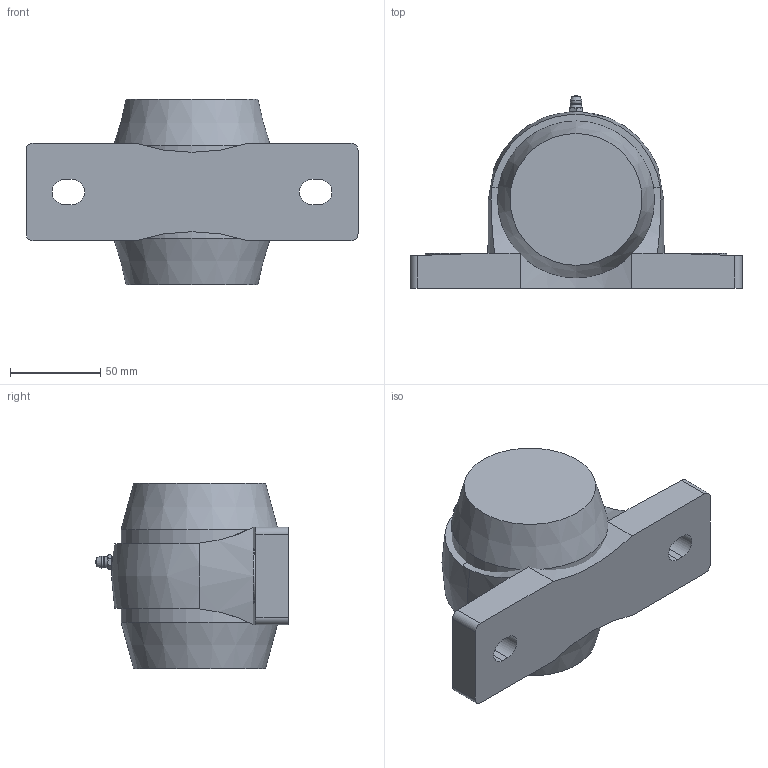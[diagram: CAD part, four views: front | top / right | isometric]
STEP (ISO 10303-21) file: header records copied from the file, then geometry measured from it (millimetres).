
FILE_DESCRIPTION(/* description */ (''),/* implementation_level */ '2;1');
FILE_NAME(/* name */ 'C:\Users\UGijyutu_200702\Desktop\77.プラスチックハウジング\MBPPL200V\MBPPL200VE\MBPPL208VE.stp',/* time_stamp */ '2023-02-10T17:01:53+09:00',/* author */ ('UGijyutu_200702'),/* organization */ (''),/* preprocessor_version */ 'ST-DEVELOPER v18',/* originating_system */ 'Autodesk Inventor 2020',/* authorisation */ '');
FILE_SCHEMA (('AUTOMOTIVE_DESIGN { 1 0 10303 214 3 1 1 }'));
Length unit declared in the file: millimetre
Products named in the file (6): MBPPL208VE; PPL208; MB8 V; 1/4-28UNF-2A; 208E; 208C
Assembly tree (5 placements, depth 2):
  MBPPL208VE
    PPL208
    MB8 V
    1/4-28UNF-2A
    208E
    208C
Bounding box: 184 x 106.8 x 103 mm (x, y, z)
Volume: 376419.3 mm3; surface area: 121296.8 mm2
Topology: 5 solids, 5 shells, 126 faces, 317 edges, 214 vertices
Faces by surface type: plane 62, cylinder 38, cone 19, sphere 4, torus 2, bspline 1
Full cylindrical faces by diameter (mm): 3.2 x1, 5.359 x1, 6 x2, 6.35 x1, 40 x2, 45 x1, 53 x1, 56 x1, 83 x2, 83.7 x2, 87 x2
Entity records: 4472 total; most frequent: CARTESIAN_POINT 1103, DIRECTION 655, ORIENTED_EDGE 632, EDGE_CURVE 316, AXIS2_PLACEMENT_3D 261, VERTEX_POINT 214, EDGE_LOOP 152, LINE 133
